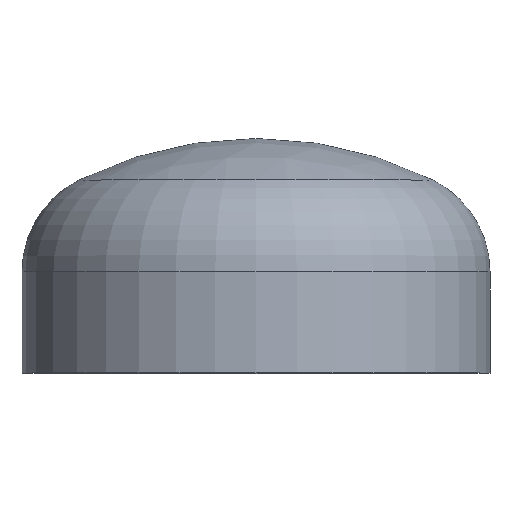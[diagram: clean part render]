
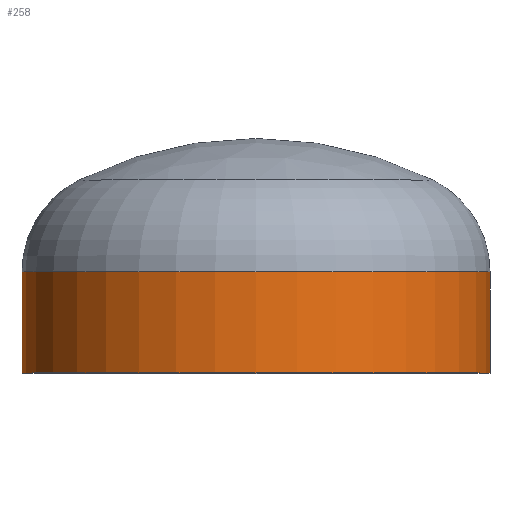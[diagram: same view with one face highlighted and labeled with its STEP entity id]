
A CAD part, top view. The second image highlights one B-rep face of the part: STEP entity #258.
In plain terms, the highlighted cylindrical face has radius 161.95 mm (diameter 323.9 mm), a partial arc.
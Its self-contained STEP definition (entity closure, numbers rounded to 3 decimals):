
#4 = VECTOR ( 'NONE', #210, 1000. ) ;
#30 = AXIS2_PLACEMENT_3D ( 'NONE', #391, #133, #242 ) ;
#59 = AXIS2_PLACEMENT_3D ( 'NONE', #305, #301, #299 ) ;
#70 = EDGE_CURVE ( 'NONE', #292, #280, #348, .T. ) ;
#76 = EDGE_CURVE ( 'NONE', #292, #322, #192, .T. ) ;
#79 = DIRECTION ( 'NONE',  ( 0., -1., 0. ) ) ;
#81 = EDGE_CURVE ( 'NONE', #322, #176, #183, .T. ) ;
#103 = CARTESIAN_POINT ( 'NONE',  ( 161.95, 70., 0. ) ) ;
#119 = ORIENTED_EDGE ( 'NONE', *, *, #363, .F. ) ;
#133 = DIRECTION ( 'NONE',  ( 0., -1., 0. ) ) ;
#156 = ORIENTED_EDGE ( 'NONE', *, *, #70, .F. ) ;
#157 = CARTESIAN_POINT ( 'NONE',  ( -161.95, 0., 0. ) ) ;
#170 = CARTESIAN_POINT ( 'NONE',  ( 0., 0., 0. ) ) ;
#176 = VERTEX_POINT ( 'NONE', #157 ) ;
#183 = LINE ( 'NONE', #355, #329 ) ;
#185 = CARTESIAN_POINT ( 'NONE',  ( 161.95, 0., 0. ) ) ;
#192 = CIRCLE ( 'NONE', #59, 161.95 ) ;
#210 = DIRECTION ( 'NONE',  ( 0., -1., 0. ) ) ;
#218 = CARTESIAN_POINT ( 'NONE',  ( 161.95, 0., 0. ) ) ;
#224 = CYLINDRICAL_SURFACE ( 'NONE', #30, 161.95 ) ;
#242 = DIRECTION ( 'NONE',  ( 1., 0., 0. ) ) ;
#251 = ORIENTED_EDGE ( 'NONE', *, *, #81, .T. ) ;
#258 = ADVANCED_FACE ( 'NONE', ( #378 ), #224, .T. ) ;
#259 = CIRCLE ( 'NONE', #404, 161.95 ) ;
#280 = VERTEX_POINT ( 'NONE', #218 ) ;
#281 = DIRECTION ( 'NONE',  ( 1., 0., 0. ) ) ;
#292 = VERTEX_POINT ( 'NONE', #103 ) ;
#299 = DIRECTION ( 'NONE',  ( 1., 0., 0. ) ) ;
#301 = DIRECTION ( 'NONE',  ( 0., -1., 0. ) ) ;
#305 = CARTESIAN_POINT ( 'NONE',  ( 0., 70., 0. ) ) ;
#307 = DIRECTION ( 'NONE',  ( 0., -1., 0. ) ) ;
#312 = ORIENTED_EDGE ( 'NONE', *, *, #76, .T. ) ;
#322 = VERTEX_POINT ( 'NONE', #396 ) ;
#329 = VECTOR ( 'NONE', #307, 1000. ) ;
#348 = LINE ( 'NONE', #185, #4 ) ;
#354 = EDGE_LOOP ( 'NONE', ( #312, #251, #119, #156 ) ) ;
#355 = CARTESIAN_POINT ( 'NONE',  ( -161.95, 0., 0. ) ) ;
#363 = EDGE_CURVE ( 'NONE', #280, #176, #259, .T. ) ;
#378 = FACE_OUTER_BOUND ( 'NONE', #354, .T. ) ;
#391 = CARTESIAN_POINT ( 'NONE',  ( 0., 0., 0. ) ) ;
#396 = CARTESIAN_POINT ( 'NONE',  ( -161.95, 70., 0. ) ) ;
#404 = AXIS2_PLACEMENT_3D ( 'NONE', #170, #79, #281 ) ;
